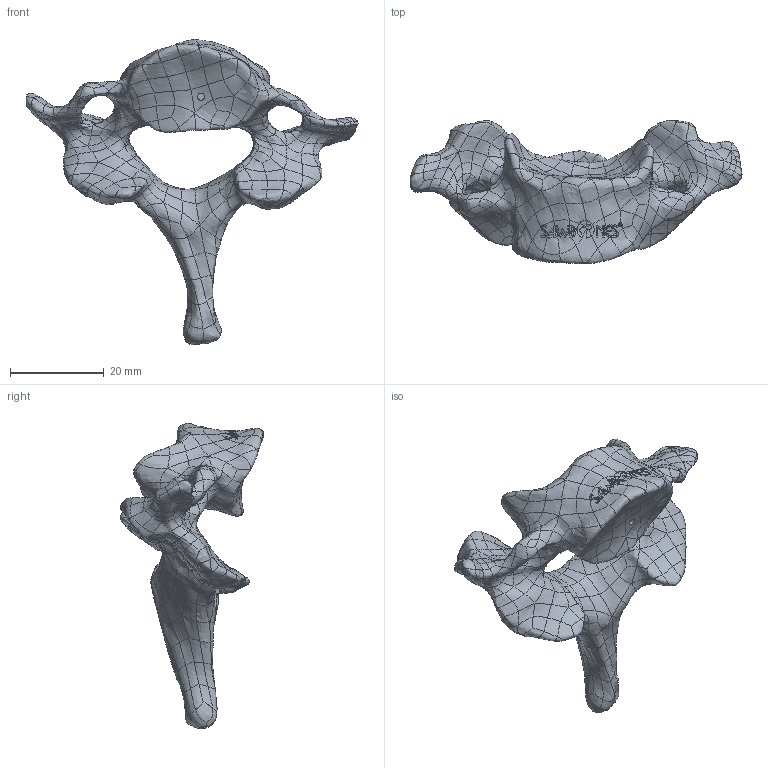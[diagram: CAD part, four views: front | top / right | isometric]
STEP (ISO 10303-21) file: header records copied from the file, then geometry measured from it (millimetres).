
FILE_DESCRIPTION (( 'STEP AP203' ), '1' );
FILE_NAME ('1377-40-7.STEP', '2025-06-12T20:31:10', ( '' ), ( '' ), 'SwSTEP 2.0', 'SolidWorks 2024', '' );
FILE_SCHEMA (( 'CONFIG_CONTROL_DESIGN' ));
Length unit declared in the file: millimetre
Products named in the file (1): 1377-40-7
Bounding box: 70.79 x 30.63 x 65.06 mm (x, y, z)
Volume: 15597.6 mm3; surface area: 6907 mm2
Topology: 1 solids, 1 shells, 1017 faces, 2217 edges, 1202 vertices
Faces by surface type: bspline 1014, cylinder 2, plane 1
Entity records: 114816 total; most frequent: CARTESIAN_POINT 100563, ORIENTED_EDGE 4434, EDGE_CURVE 2217, B_SPLINE_CURVE_WITH_KNOTS 2213, VERTEX_POINT 1202, EDGE_LOOP 1023, ADVANCED_FACE 1017, FACE_OUTER_BOUND 1017
